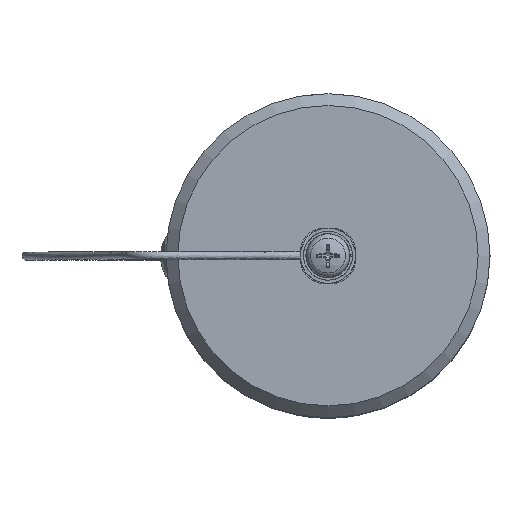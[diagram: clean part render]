
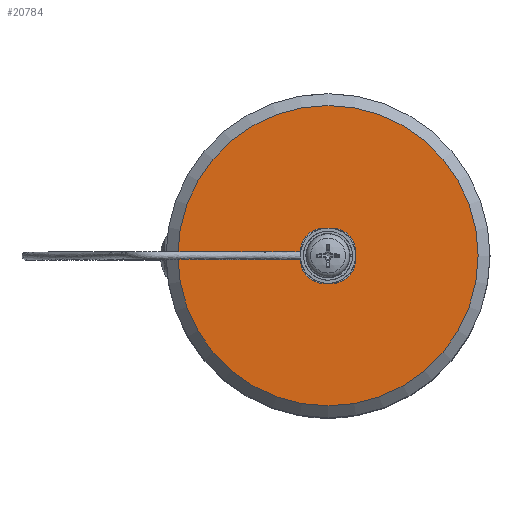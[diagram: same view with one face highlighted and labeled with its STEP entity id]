
A CAD part, top view. The second image highlights one B-rep face of the part: STEP entity #20784.
In plain terms, the highlighted planar face has unit normal (0, 0, 1).
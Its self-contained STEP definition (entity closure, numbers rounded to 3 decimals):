
#13 = CIRCLE ( 'NONE', #3888, 3. ) ;
#808 = CARTESIAN_POINT ( 'NONE',  ( -19., 0., 88.4 ) ) ;
#956 = AXIS2_PLACEMENT_3D ( 'NONE', #20192, #26315, #20366 ) ;
#1475 = CARTESIAN_POINT ( 'NONE',  ( 0., -3.5, 88.4 ) ) ;
#1628 = FACE_BOUND ( 'NONE', #5345, .T. ) ;
#1904 = ORIENTED_EDGE ( 'NONE', *, *, #21781, .T. ) ;
#2220 = CARTESIAN_POINT ( 'NONE',  ( -3.5, 0.5, 88.4 ) ) ;
#2589 = ORIENTED_EDGE ( 'NONE', *, *, #25675, .T. ) ;
#3241 = CARTESIAN_POINT ( 'NONE',  ( -4.546, -0.397, 88.4 ) ) ;
#3322 = ORIENTED_EDGE ( 'NONE', *, *, #5177, .T. ) ;
#3888 = AXIS2_PLACEMENT_3D ( 'NONE', #20842, #10492, #14551 ) ;
#4858 = B_SPLINE_CURVE_WITH_KNOTS ( 'NONE', 3,
 ( #7246, #15412, #11271, #3241, #17488, #9481, #5110, #5196, #21698, #25519, #19571, #11446, #11528, #9232, #25874, #21607, #17655, #5460, #9391, #23651, #13300, #15254 ),
 .UNSPECIFIED., .F., .F.,
 ( 4, 2, 2, 2, 2, 2, 2, 2, 2, 2, 4 ),
 ( 0., 0.001, 0.001, 0.002, 0.002, 0.002, 0.002, 0.002, 0.002, 0.003, 0.004 ),
 .UNSPECIFIED. ) ;
#5016 = DIRECTION ( 'NONE',  ( -1., 0., 0. ) ) ;
#5110 = CARTESIAN_POINT ( 'NONE',  ( -4.97, -0.237, 88.4 ) ) ;
#5177 = EDGE_CURVE ( 'NONE', #23315, #13491, #10386, .T. ) ;
#5196 = CARTESIAN_POINT ( 'NONE',  ( -5.058, -0.165, 88.4 ) ) ;
#5240 = VERTEX_POINT ( 'NONE', #808 ) ;
#5345 = EDGE_LOOP ( 'NONE', ( #25513, #24261, #3322, #7534, #21123, #1904, #12330, #2589 ) ) ;
#5460 = CARTESIAN_POINT ( 'NONE',  ( -4.691, 0.361, 88.4 ) ) ;
#5834 = VERTEX_POINT ( 'NONE', #9938 ) ;
#5992 = DIRECTION ( 'NONE',  ( 0.707, 0.707, 0. ) ) ;
#6098 = CARTESIAN_POINT ( 'NONE',  ( 0.5, -3.5, 88.4 ) ) ;
#6675 = EDGE_CURVE ( 'NONE', #19836, #16898, #13, .T. ) ;
#7191 = ORIENTED_EDGE ( 'NONE', *, *, #21276, .F. ) ;
#7246 = CARTESIAN_POINT ( 'NONE',  ( -3.5, -0.5, 88.4 ) ) ;
#7534 = ORIENTED_EDGE ( 'NONE', *, *, #19232, .T. ) ;
#7740 = CARTESIAN_POINT ( 'NONE',  ( 0.5, -0.5, 88.4 ) ) ;
#7936 = VERTEX_POINT ( 'NONE', #6098 ) ;
#9232 = CARTESIAN_POINT ( 'NONE',  ( -5.083, 0.141, 88.4 ) ) ;
#9357 = DIRECTION ( 'NONE',  ( 0., 0., -1. ) ) ;
#9391 = CARTESIAN_POINT ( 'NONE',  ( -4.544, 0.397, 88.4 ) ) ;
#9481 = CARTESIAN_POINT ( 'NONE',  ( -4.901, -0.272, 88.4 ) ) ;
#9612 = DIRECTION ( 'NONE',  ( -1., 0., 0. ) ) ;
#9780 = DIRECTION ( 'NONE',  ( 0., -1., 0. ) ) ;
#9938 = CARTESIAN_POINT ( 'NONE',  ( -0.5, -3.5, 88.4 ) ) ;
#10386 = CIRCLE ( 'NONE', #13731, 3. ) ;
#10492 = DIRECTION ( 'NONE',  ( 0., 0., -1. ) ) ;
#10980 = CARTESIAN_POINT ( 'NONE',  ( 3.5, 0.5, 88.4 ) ) ;
#11210 = FACE_OUTER_BOUND ( 'NONE', #17868, .T. ) ;
#11271 = CARTESIAN_POINT ( 'NONE',  ( -4.102, -0.481, 88.4 ) ) ;
#11288 = AXIS2_PLACEMENT_3D ( 'NONE', #7740, #9357, #24139 ) ;
#11446 = CARTESIAN_POINT ( 'NONE',  ( -5.14, 0.04, 88.4 ) ) ;
#11528 = CARTESIAN_POINT ( 'NONE',  ( -5.126, 0.078, 88.4 ) ) ;
#11856 = LINE ( 'NONE', #26291, #22081 ) ;
#11978 = DIRECTION ( 'NONE',  ( 0., 0., -1. ) ) ;
#12330 = ORIENTED_EDGE ( 'NONE', *, *, #15157, .T. ) ;
#13300 = CARTESIAN_POINT ( 'NONE',  ( -3.801, 0.5, 88.4 ) ) ;
#13491 = VERTEX_POINT ( 'NONE', #10980 ) ;
#13731 = AXIS2_PLACEMENT_3D ( 'NONE', #14110, #11978, #5992 ) ;
#13747 = CARTESIAN_POINT ( 'NONE',  ( 0., 0., 88.4 ) ) ;
#14110 = CARTESIAN_POINT ( 'NONE',  ( 0.5, 0.5, 88.4 ) ) ;
#14303 = CIRCLE ( 'NONE', #956, 3. ) ;
#14551 = DIRECTION ( 'NONE',  ( -0.707, 0.707, 0. ) ) ;
#15134 = LINE ( 'NONE', #21542, #17704 ) ;
#15157 = EDGE_CURVE ( 'NONE', #5834, #25239, #14303, .T. ) ;
#15254 = CARTESIAN_POINT ( 'NONE',  ( -3.5, 0.5, 88.4 ) ) ;
#15412 = CARTESIAN_POINT ( 'NONE',  ( -3.802, -0.5, 88.4 ) ) ;
#16266 = CIRCLE ( 'NONE', #21405, 19. ) ;
#16898 = VERTEX_POINT ( 'NONE', #23585 ) ;
#17008 = VERTEX_POINT ( 'NONE', #23936 ) ;
#17488 = CARTESIAN_POINT ( 'NONE',  ( -4.693, -0.36, 88.4 ) ) ;
#17655 = CARTESIAN_POINT ( 'NONE',  ( -4.898, 0.273, 88.4 ) ) ;
#17704 = VECTOR ( 'NONE', #9780, 1000. ) ;
#17782 = CARTESIAN_POINT ( 'NONE',  ( -3.5, -0.5, 88.4 ) ) ;
#17868 = EDGE_LOOP ( 'NONE', ( #7191 ) ) ;
#18132 = LINE ( 'NONE', #1475, #21971 ) ;
#18440 = EDGE_CURVE ( 'NONE', #17008, #7936, #25420, .T. ) ;
#18672 = AXIS2_PLACEMENT_3D ( 'NONE', #21156, #18938, #18851 ) ;
#18851 = DIRECTION ( 'NONE',  ( -1., 0., 0. ) ) ;
#18938 = DIRECTION ( 'NONE',  ( 0., 0., -1. ) ) ;
#19232 = EDGE_CURVE ( 'NONE', #13491, #17008, #15134, .T. ) ;
#19571 = CARTESIAN_POINT ( 'NONE',  ( -5.14, -0.036, 88.4 ) ) ;
#19836 = VERTEX_POINT ( 'NONE', #2220 ) ;
#19938 = DIRECTION ( 'NONE',  ( 0., 0., -1. ) ) ;
#20192 = CARTESIAN_POINT ( 'NONE',  ( -0.5, -0.5, 88.4 ) ) ;
#20366 = DIRECTION ( 'NONE',  ( -0.707, -0.707, 0. ) ) ;
#20784 = ADVANCED_FACE ( 'NONE', ( #1628, #11210 ), #25149, .F. ) ;
#20842 = CARTESIAN_POINT ( 'NONE',  ( -0.5, 0.5, 88.4 ) ) ;
#21123 = ORIENTED_EDGE ( 'NONE', *, *, #18440, .T. ) ;
#21156 = CARTESIAN_POINT ( 'NONE',  ( 0., 0., 88.4 ) ) ;
#21276 = EDGE_CURVE ( 'NONE', #5240, #5240, #16266, .T. ) ;
#21405 = AXIS2_PLACEMENT_3D ( 'NONE', #13747, #19938, #5016 ) ;
#21542 = CARTESIAN_POINT ( 'NONE',  ( 3.5, 0., 88.4 ) ) ;
#21607 = CARTESIAN_POINT ( 'NONE',  ( -4.967, 0.238, 88.4 ) ) ;
#21698 = CARTESIAN_POINT ( 'NONE',  ( -5.086, -0.138, 88.4 ) ) ;
#21781 = EDGE_CURVE ( 'NONE', #7936, #5834, #18132, .T. ) ;
#21882 = CARTESIAN_POINT ( 'NONE',  ( 0.5, 3.5, 88.4 ) ) ;
#21971 = VECTOR ( 'NONE', #9612, 1000. ) ;
#22081 = VECTOR ( 'NONE', #22284, 1000. ) ;
#22284 = DIRECTION ( 'NONE',  ( 1., 0., 0. ) ) ;
#23315 = VERTEX_POINT ( 'NONE', #21882 ) ;
#23585 = CARTESIAN_POINT ( 'NONE',  ( -0.5, 3.5, 88.4 ) ) ;
#23651 = CARTESIAN_POINT ( 'NONE',  ( -4.1, 0.48, 88.4 ) ) ;
#23936 = CARTESIAN_POINT ( 'NONE',  ( 3.5, -0.5, 88.4 ) ) ;
#24139 = DIRECTION ( 'NONE',  ( 0.707, -0.707, 0. ) ) ;
#24261 = ORIENTED_EDGE ( 'NONE', *, *, #24779, .T. ) ;
#24779 = EDGE_CURVE ( 'NONE', #16898, #23315, #11856, .T. ) ;
#25149 = PLANE ( 'NONE',  #18672 ) ;
#25239 = VERTEX_POINT ( 'NONE', #17782 ) ;
#25420 = CIRCLE ( 'NONE', #11288, 3. ) ;
#25513 = ORIENTED_EDGE ( 'NONE', *, *, #6675, .T. ) ;
#25519 = CARTESIAN_POINT ( 'NONE',  ( -5.127, -0.073, 88.4 ) ) ;
#25675 = EDGE_CURVE ( 'NONE', #25239, #19836, #4858, .T. ) ;
#25874 = CARTESIAN_POINT ( 'NONE',  ( -5.055, 0.168, 88.4 ) ) ;
#26291 = CARTESIAN_POINT ( 'NONE',  ( 0., 3.5, 88.4 ) ) ;
#26315 = DIRECTION ( 'NONE',  ( 0., 0., -1. ) ) ;
